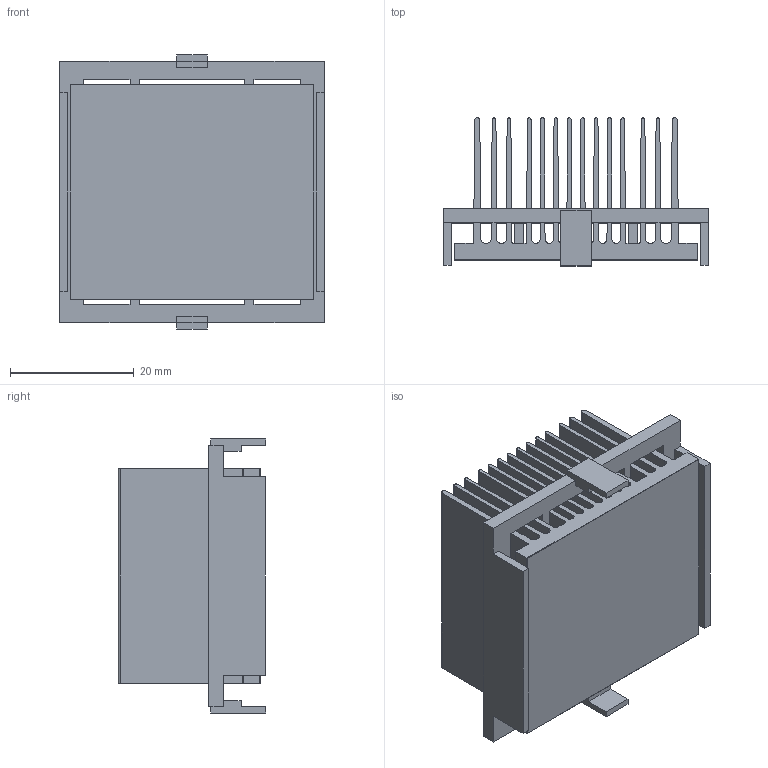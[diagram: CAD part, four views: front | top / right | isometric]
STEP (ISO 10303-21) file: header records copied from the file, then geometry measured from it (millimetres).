
FILE_DESCRIPTION (( 'STEP AP214' ), '1' );
FILE_NAME ('INH40001-23-2.6O.STEP', '2023-02-20T19:48:54', ( '' ), ( '' ), 'SwSTEP 2.0', 'SolidWorks 2020', '' );
FILE_SCHEMA (( 'AUTOMOTIVE_DESIGN' ));
Length unit declared in the file: millimetre
Products named in the file (1): INH40001-23-2.6O
Bounding box: 42.7 x 23.86 x 44.2 mm (x, y, z)
Volume: 13170.8 mm3; surface area: 28506.4 mm2
Topology: 3 solids, 3 shells, 154 faces, 444 edges, 296 vertices
Faces by surface type: plane 112, cylinder 42
Entity records: 6782 total; most frequent: CARTESIAN_POINT 895, ORIENTED_EDGE 888, DIRECTION 838, EDGE_CURVE 444, LINE 360, VECTOR 360, VERTEX_POINT 296, AXIS2_PLACEMENT_3D 239
